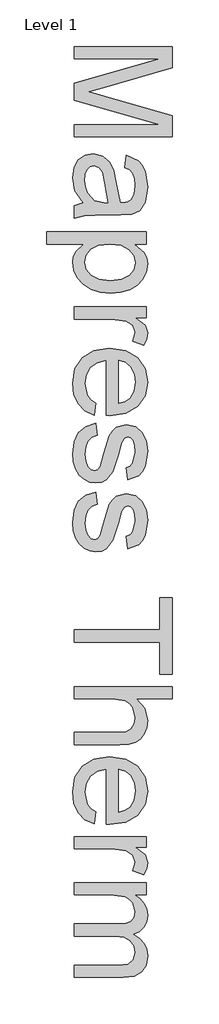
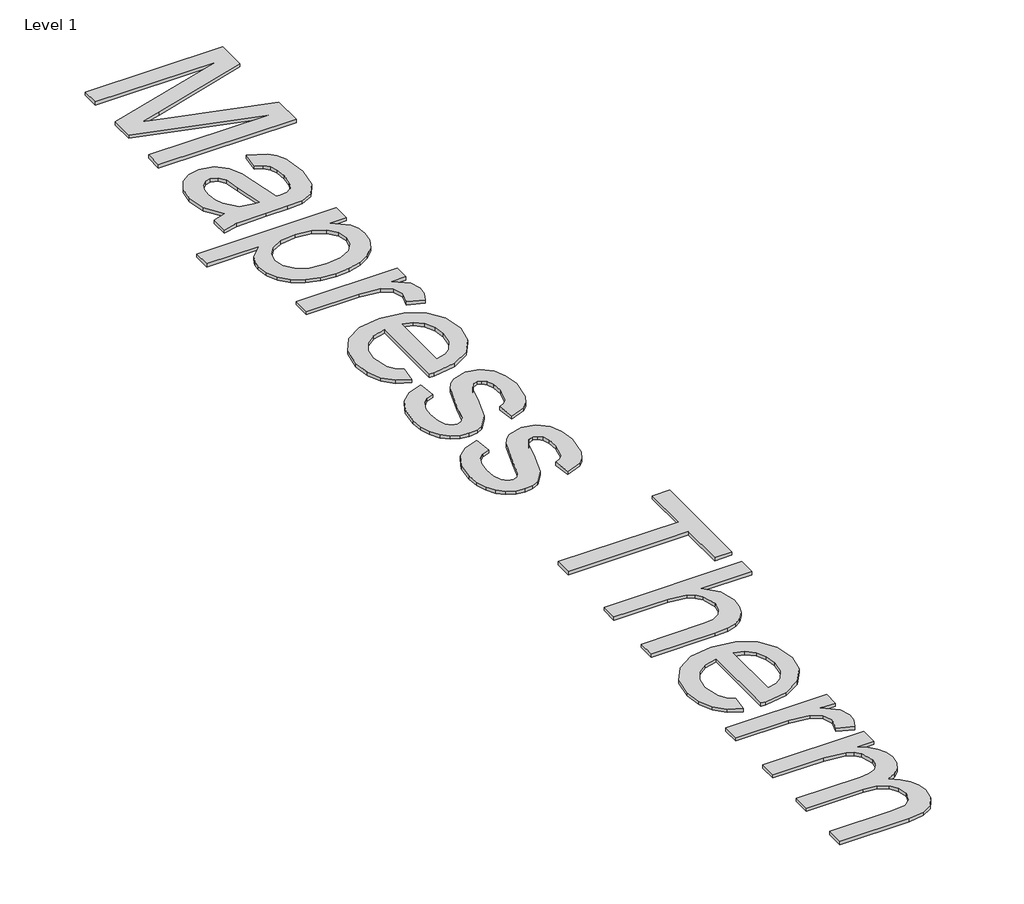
# One storey, part 8 of 8: 1 proxy.
"""IFC4 building model written with IfcOpenShell, lengths in millimetres."""

from ifc_helpers import new_model, si_unit, origin, origin_with_axes, place, context, project, spatial, polyline, outline, extrude, element, save

model = new_model("IFC4")

# Units and contexts
model_context = context("Model", 3, world=origin())
ifc_project = project(units=[si_unit("LENGTHUNIT", "METRE", prefix="MILLI")], contexts=[model_context])

# Site, building, storey
site = spatial("IfcSite", under=ifc_project)
building = spatial("IfcBuilding", under=site)
storey = spatial("IfcBuildingStorey", under=building, Name="Level 1", Elevation=0.0)

# Proxy
placement = place(None, origin())
element("IfcBuildingElementProxy", 1, Name="medium", ObjectType="medium", at=placement, inside=storey, context=model_context, shape_type="SweptSolid", body=[
    extrude(outline(polyline([(9983.7165798, 5977.3680141), (10184.6292001, 5977.3680141), (10184.6292001, 5934.1541424), (10043.0191574, 5893.0494608), (10013.441445, 5884.7598532), (10045.4717041, 5875.7835325), (10184.6292001, 5835.365564), (10184.6292001, 5792.1516923), (9983.7165798, 5792.1516923), (9983.7165798, 5817.2657698), (10159.5151226, 5817.2657698), (9983.7165798, 5867.7391796), (9983.7165798, 5901.7805269), (10159.5151226, 5952.2539366), (9983.7165798, 5952.2539366), (9983.7165798, 5977.3680141)])), origin_with_axes(), (0.0, 0.0, 1.0), 5.0),
    extrude(outline(polyline([(10002.5521379, 5657.1635255), (9985.5314643, 5681.5173136), (9980.5773201, 5708.4217502), (9983.5571643, 5729.409418), (9992.4966967, 5744.8911187), (10006.0715424, 5754.4376564), (10022.9573259, 5757.6198357), (10042.8229537, 5752.8128443), (10057.2439279, 5740.1822291), (10065.4844846, 5722.5974698), (10069.2614064, 5700.8679066), (10077.8943706, 5657.3106783), (10083.4861769, 5657.1635255), (10094.694315, 5658.8925709), (10102.0274294, 5664.0797071), (10107.472083, 5675.6802526), (10109.2869675, 5691.842535), (10108.0790883, 5706.8030694), (10104.4554506, 5717.2509181), (10097.7538669, 5724.3755661), (10087.3121496, 5729.3664985), (10090.4514093, 5754.480576), (10114.9768757, 5743.6157944), (10123.2296951, 5734.3574309), (10129.348799, 5721.7390784), (10134.401045, 5688.6051734), (10129.9374101, 5658.1690697), (10118.729272, 5640.9767178), (10101.6840729, 5633.2757213), (10079.7092551, 5632.049448), (10048.4638109, 5632.049448), (10004.8330063, 5630.7741238), (9983.7165798, 5625.7709286), (9983.7165798, 5650.8850062), (10002.5521379, 5657.1635255)]), holes=[polyline([(10052.780293, 5657.1635255), (10045.0792966, 5697.6795959), (10041.0080692, 5719.2865318), (10034.3861933, 5729.0721929), (10024.7231595, 5732.5057582), (10017.255155, 5730.6356913), (10011.1360512, 5725.0254909), (10007.052561, 5715.7977842), (10005.6913976, 5703.0751985), (10007.1935825, 5689.5861921), (10011.7001369, 5677.6668154), (10026.2437384, 5661.2838039), (10045.6679078, 5657.3106783), (10052.780293, 5657.1635255)])]), origin_with_axes(), (0.0, 0.0, 1.0), 5.0),
    extrude(outline(polyline([(9927.2099053, 5597.5175914), (10131.2617853, 5597.5175914), (10131.2617853, 5572.4035139), (10106.6382171, 5572.4035139), (10127.460338, 5555.0394837), (10132.6658683, 5544.3463804), (10134.401045, 5531.5931379), (10131.9730239, 5514.6092524), (10124.6889603, 5499.7590825), (10112.9903129, 5487.6680276), (10097.3185399, 5478.9614871), (10078.8140755, 5473.7007745), (10058.617354, 5471.9472037), (10037.1391769, 5473.9276351), (10017.9296053, 5479.8689293), (10001.9635268, 5489.581014), (9990.2158284, 5502.8738168), (9982.9869472, 5518.3555174), (9980.5773201, 5534.6342957), (9982.1898695, 5546.179659), (9987.0275178, 5556.4864862), (10003.3369529, 5572.4035139), (9927.2099053, 5572.4035139), (9927.2099053, 5597.5175914)]), holes=[polyline([(10056.3119602, 5572.4035139), (10033.7975821, 5569.6873185), (10018.0522327, 5561.5387323), (10008.7816064, 5549.5151224), (10005.6913976, 5535.1738559), (10008.891971, 5520.5995976), (10018.4936911, 5508.2694194), (10034.8153889, 5499.8633158), (10058.1758956, 5497.0612812), (10080.5676464, 5499.7958707), (10096.533725, 5507.9996392), (10106.0986569, 5520.004855), (10109.2869675, 5534.1437864), (10105.8963218, 5548.3379), (10095.7243846, 5560.8029683), (10079.089987, 5569.5033775), (10056.3119602, 5572.4035139)])]), origin_with_axes(), (0.0, 0.0, 1.0), 5.0),
    extrude(outline(polyline([(9983.7165798, 5443.6938665), (10131.2617853, 5443.6938665), (10131.2617853, 5421.7190486), (10109.4341203, 5421.7190486), (10129.5450027, 5406.120852), (10134.401045, 5390.4245536), (10132.4635332, 5377.9165657), (10126.6509977, 5365.2123742), (10104.1366195, 5373.6000837), (10109.2869675, 5391.2584194), (10104.3328233, 5405.4586644), (10090.5985621, 5414.5085615), (10061.2661044, 5418.5797889), (9983.7165798, 5418.5797889), (9983.7165798, 5443.6938665)])), origin_with_axes(), (0.0, 0.0, 1.0), 5.0),
    extrude(outline(polyline([(10027.6662155, 5246.2148115), (10024.5269558, 5221.5912433), (10005.9734405, 5230.4633307), (9992.1042893, 5244.6206562), (9983.4590624, 5263.7443885), (9980.5773201, 5287.5156968), (9985.5498584, 5316.9830446), (10000.4674733, 5339.6568382), (10024.3614089, 5354.1146006), (10056.2629092, 5358.9338548), (10089.2373987, 5354.0655497), (10113.8977552, 5339.4606345), (10129.2752226, 5317.0934092), (10134.401045, 5288.9381738), (10129.2874853, 5261.6597239), (10113.9468061, 5239.8627157), (10089.3355006, 5225.5705002), (10056.410062, 5220.8064283), (10049.6410333, 5220.9535811), (10049.6410333, 5333.8197772), (10030.8422634, 5329.4726383), (10017.0221631, 5319.3742776), (10008.524089, 5304.8000192), (10005.6913976, 5287.0251875), (10010.9398474, 5262.4016193), (10017.7456643, 5253.2536203), (10027.6662155, 5246.2148115)]), holes=[polyline([(10074.7551109, 5333.8197772), (10074.7551109, 5245.9205059), (10088.0233882, 5249.317283), (10097.5147436, 5255.9759471), (10106.3439115, 5270.6176505), (10109.2869675, 5289.0362757), (10106.9386541, 5305.9649788), (10099.8937139, 5319.9628888), (10088.9124363, 5329.6933675), (10074.7551109, 5333.8197772)])]), origin_with_axes(), (0.0, 0.0, 1.0), 5.0),
    extrude(outline(polyline([(10027.6662155, 5205.1101299), (10030.8054752, 5179.9960523), (10020.0633209, 5176.0351895), (10012.1661208, 5168.3709813), (10007.3100784, 5156.9543767), (10005.6913976, 5141.7363248), (10007.1751884, 5126.702214), (10011.6265605, 5116.131738), (10018.0767581, 5109.8777441), (10025.5570254, 5107.7930794), (10031.9581721, 5109.8900068), (10036.8387399, 5116.1807889), (10044.0001761, 5142.0306304), (10056.2874347, 5179.8488995), (10062.4617209, 5189.4199628), (10070.6348325, 5196.3545384), (10090.8928677, 5201.9708702), (10109.6057985, 5197.4581844), (10123.9041454, 5185.1464003), (10131.3353617, 5169.1803217), (10134.401045, 5147.5733858), (10129.4714263, 5117.0146548), (10123.6711535, 5105.5857874), (10116.1295726, 5097.5904854), (10093.590669, 5088.9575213), (10090.4514093, 5114.0715988), (10098.3547409, 5117.2415153), (10104.3082978, 5123.5139033), (10109.2869675, 5145.6113485), (10108.0974824, 5160.0323227), (10104.529027, 5169.6463055), (10099.3786791, 5175.0541709), (10093.4435162, 5176.8567926), (10086.1349273, 5173.8646857), (10080.5921719, 5164.4959576), (10075.2456202, 5142.8644963), (10063.4243454, 5106.0027204), (10050.0334408, 5088.8839449), (10040.1864661, 5084.2302376), (10028.2057757, 5082.6790019), (10015.8204152, 5084.5000177), (10004.1708187, 5089.9630654), (9994.1705598, 5098.8596783), (9986.7332122, 5110.98139), (9982.1162931, 5125.6230934), (9980.5773201, 5142.0796814), (9983.5449015, 5167.4022254), (9992.4476458, 5185.8821643), (10007.1874511, 5198.2184738), (10027.6662155, 5205.1101299)])), origin_with_axes(), (0.0, 0.0, 1.0), 5.0),
    extrude(outline(polyline([(10027.6662155, 5063.8434437), (10030.8054752, 5038.7293662), (10020.0633209, 5034.7685034), (10012.1661208, 5027.1042951), (10007.3100784, 5015.6876906), (10005.6913976, 5000.4696387), (10007.1751884, 4985.4355278), (10011.6265605, 4974.8650518), (10018.0767581, 4968.6110579), (10025.5570254, 4966.5263933), (10031.9581721, 4968.6233206), (10036.8387399, 4974.9141028), (10044.0001761, 5000.7639443), (10056.2874347, 5038.5822134), (10062.4617209, 5048.1532766), (10070.6348325, 5055.0878522), (10090.8928677, 5060.704184), (10109.6057985, 5056.1914982), (10123.9041454, 5043.8797141), (10131.3353617, 5027.9136355), (10134.401045, 5006.3066997), (10129.4714263, 4975.7479686), (10123.6711535, 4964.3191013), (10116.1295726, 4956.3237993), (10093.590669, 4947.6908351), (10090.4514093, 4972.8049126), (10098.3547409, 4975.9748292), (10104.3082978, 4982.2472172), (10109.2869675, 5004.3446624), (10108.0974824, 5018.7656366), (10104.529027, 5028.3796194), (10099.3786791, 5033.7874847), (10093.4435162, 5035.5901065), (10086.1349273, 5032.5979996), (10080.5921719, 5023.2292715), (10075.2456202, 5001.5978101), (10063.4243454, 4964.7360342), (10050.0334408, 4947.6172587), (10040.1864661, 4942.9635515), (10028.2057757, 4941.4123157), (10015.8204152, 4943.2333316), (10004.1708187, 4948.6963792), (9994.1705598, 4957.5929921), (9986.7332122, 4969.7147039), (9982.1162931, 4984.3564073), (9980.5773201, 5000.8129952), (9983.5449015, 5026.1355392), (9992.4476458, 5044.6154781), (10007.1874511, 5056.9517877), (10027.6662155, 5063.8434437)])), origin_with_axes(), (0.0, 0.0, 1.0), 5.0),
    extrude(outline(polyline([(9983.7165798, 4781.3100714), (10159.5151226, 4781.3100714), (10159.5151226, 4847.234525), (10184.6292001, 4847.234525), (10184.6292001, 4690.2715404), (10159.5151226, 4690.2715404), (10159.5151226, 4756.1959939), (9983.7165798, 4756.1959939), (9983.7165798, 4781.3100714)])), origin_with_axes(), (0.0, 0.0, 1.0), 5.0),
    extrude(outline(polyline([(9983.7165798, 4665.1574628), (10184.6292001, 4665.1574628), (10184.6292001, 4640.0433853), (10110.7584955, 4640.0433853), (10128.4904076, 4620.4598004), (10134.401045, 4596.3390043), (10132.7884956, 4581.1700033), (10127.9508474, 4568.134718), (10120.268245, 4557.8708103), (10110.1208333, 4551.0159424), (10096.1781057, 4547.1531815), (10077.1095556, 4545.8655945), (9983.7165798, 4545.8655945), (9983.7165798, 4570.979672), (10074.5098562, 4570.979672), (10090.2306801, 4572.9784976), (10100.9973599, 4578.9749741), (10107.2145656, 4588.6380078), (10109.2869675, 4601.636505), (10103.6951612, 4622.2133712), (10097.1100734, 4630.4661907), (10088.538423, 4635.9476324), (10062.0999702, 4640.0433853), (9983.7165798, 4640.0433853), (9983.7165798, 4665.1574628)])), origin_with_axes(), (0.0, 0.0, 1.0), 5.0),
    extrude(outline(polyline([(10027.6662155, 4408.0324737), (10024.5269558, 4383.4089054), (10005.9734405, 4392.2809929), (9992.1042893, 4406.4383183), (9983.4590624, 4425.5620507), (9980.5773201, 4449.333359), (9985.5498584, 4478.8007068), (10000.4674733, 4501.4745004), (10024.3614089, 4515.9322628), (10056.2629092, 4520.751517), (10089.2373987, 4515.8832119), (10113.8977552, 4501.2782967), (10129.2752226, 4478.9110714), (10134.401045, 4450.755836), (10129.2874853, 4423.4773861), (10113.9468061, 4401.6803779), (10089.3355006, 4387.3881624), (10056.410062, 4382.6240905), (10049.6410333, 4382.7712433), (10049.6410333, 4495.6374394), (10030.8422634, 4491.2903005), (10017.0221631, 4481.1919398), (10008.524089, 4466.6176814), (10005.6913976, 4448.8428497), (10010.9398474, 4424.2192814), (10017.7456643, 4415.0712825), (10027.6662155, 4408.0324737)]), holes=[polyline([(10074.7551109, 4495.6374394), (10074.7551109, 4407.7381681), (10088.0233882, 4411.1349451), (10097.5147436, 4417.7936093), (10106.3439115, 4432.4353127), (10109.2869675, 4450.8539379), (10106.9386541, 4467.782641), (10099.8937139, 4481.780551), (10088.9124363, 4491.5110297), (10074.7551109, 4495.6374394)])]), origin_with_axes(), (0.0, 0.0, 1.0), 5.0),
    extrude(outline(polyline([(9983.7165798, 4357.510013), (10131.2617853, 4357.510013), (10131.2617853, 4335.5351951), (10109.4341203, 4335.5351951), (10129.5450027, 4319.9369985), (10134.401045, 4304.2407001), (10132.4635332, 4291.7327122), (10126.6509977, 4279.0285207), (10104.1366195, 4287.4162302), (10109.2869675, 4305.0745659), (10104.3328233, 4319.2748109), (10090.5985621, 4328.324708), (10061.2661044, 4332.3959354), (9983.7165798, 4332.3959354), (9983.7165798, 4357.510013)])), origin_with_axes(), (0.0, 0.0, 1.0), 5.0),
    extrude(outline(polyline([(9983.7165798, 4263.3322222), (10131.2617853, 4263.3322222), (10131.2617853, 4238.2181447), (10106.9815736, 4238.2181447), (10118.1345295, 4230.664301), (10126.8717269, 4220.9522164), (10132.5187155, 4209.4129845), (10134.401045, 4196.3776991), (10132.4819273, 4182.410446), (10126.7245741, 4171.2145706), (10117.5091301, 4162.8513866), (10105.2157401, 4157.3822076), (10117.984311, 4148.2280773), (10127.1047188, 4137.78636), (10132.5769635, 4126.0570557), (10134.401045, 4113.0401645), (10131.3660186, 4094.1616867), (10122.2609392, 4080.200565), (10106.8405522, 4071.5737322), (10084.859603, 4068.6981213), (9983.7165798, 4068.6981213), (9983.7165798, 4093.8121988), (10074.0683978, 4093.8121988), (10095.0376715, 4096.1421181), (10105.3628929, 4104.5788786), (10109.2869675, 4118.9262764), (10106.7731072, 4132.5317788), (10099.2315263, 4143.623421), (10086.14719, 4150.999455), (10067.0050635, 4153.458133), (9983.7165798, 4153.458133), (9983.7165798, 4178.5722105), (10076.864301, 4178.5722105), (10091.064546, 4180.0253444), (10101.1935636, 4184.3847461), (10107.2636165, 4192.0550857), (10109.2869675, 4203.4410334), (10103.8913649, 4222.0313369), (10097.2449635, 4229.3889768), (10088.0969646, 4234.3921719), (10058.1268447, 4238.2181447), (9983.7165798, 4238.2181447), (9983.7165798, 4263.3322222)])), origin_with_axes(), (0.0, 0.0, 1.0), 5.0),
])

save(model, "model.ifc")
